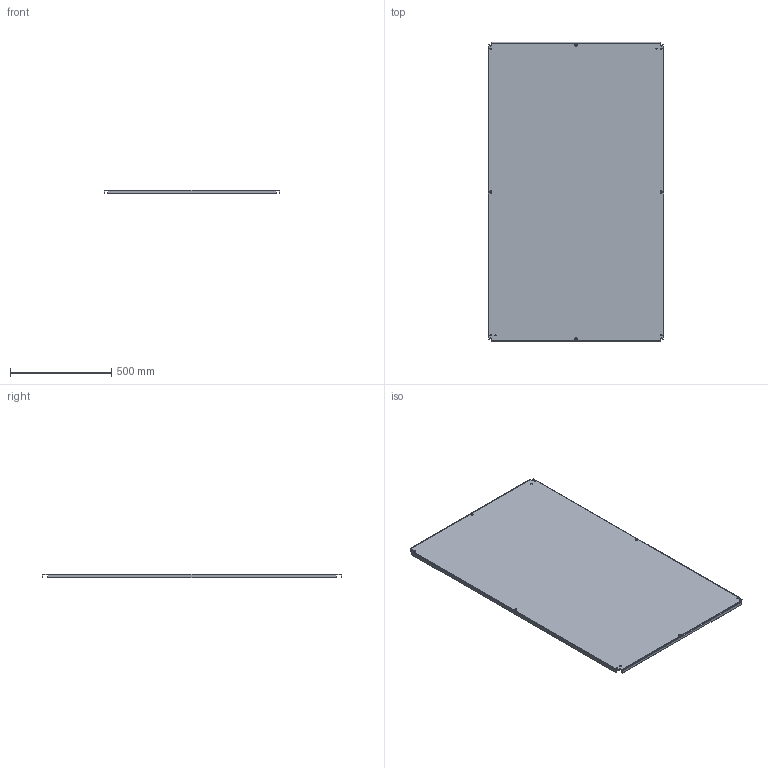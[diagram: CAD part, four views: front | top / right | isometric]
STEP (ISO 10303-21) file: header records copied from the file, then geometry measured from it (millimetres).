
FILE_DESCRIPTION (( 'STEP AP203' ), '1' );
FILE_NAME ('cp6036.STEP', '2011-10-17T16:21:37', ( 'Hoffman User' ), ( 'Hoffman Enclosures' ), 'SwSTEP 2.0', 'SolidWorks 2010', '' );
FILE_SCHEMA (( 'CONFIG_CONTROL_DESIGN' ));
Length unit declared in the file: inch
Products named in the file (2): cp6036; 64403022
Assembly tree (1 placements, depth 2):
  cp6036
    64403022
Bounding box: 868.68 x 1478.28 x 19.05 mm (x, y, z)
Volume: 3329055.2 mm3; surface area: 2714992.3 mm2
Topology: 1 solids, 1 shells, 160 faces, 396 edges, 244 vertices
Faces by surface type: plane 132, cylinder 28
Entity records: 4852 total; most frequent: CARTESIAN_POINT 804, ORIENTED_EDGE 792, DIRECTION 784, EDGE_CURVE 396, VECTOR 336, LINE 336, VERTEX_POINT 244, AXIS2_PLACEMENT_3D 224
